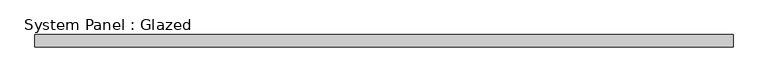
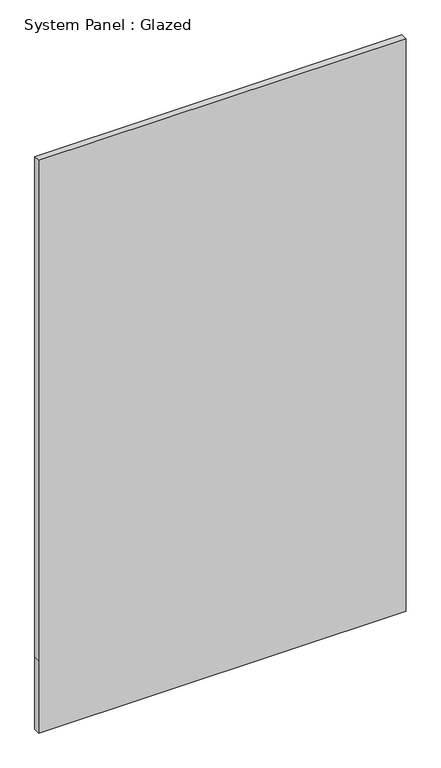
"""IFC4 building model written with IfcOpenShell, lengths in millimetres: plate geometry, System Panel : Glazed."""

import ifcopenshell
import ifcopenshell.guid

model = None  # the IFC model being written
_history = None  # IfcOwnerHistory: only IFC2X3 demands one
_inside = {}  # id of a spatial element -> (the spatial element, [elements in it])
_under = {}  # id of a project, library or spatial element -> (it, [spatial elements below it])
_declared = {}  # id of a project -> (the project, [libraries it declares])
_typed = {}  # id of a type object -> (the type object, [elements of that type])
_made_of = {}  # id of a material, layer set ... -> (it, [elements and type objects made of it])


def new_model(schema):
    """Start an empty IFC model of exactly this schema.

    Asked for "IFC4X3", IfcOpenShell would pick the latest addendum, in which some entities
    have other attributes; the version numbers below select the first issue.
    IFC2X3 requires an IfcOwnerHistory on every rooted entity: one is made here for all.
    """
    global model, _history
    if schema == "IFC4X3":
        model = ifcopenshell.file(schema_version=(4, 3, 0, 0))
    else:
        model = ifcopenshell.file(schema=schema)
    _inside.clear()
    _under.clear()
    _declared.clear()
    _typed.clear()
    _made_of.clear()
    _history = None
    if model.schema == "IFC2X3":
        org = make("IfcOrganization", Name="unknown")
        user = make(
            "IfcPersonAndOrganization",
            ThePerson=make("IfcPerson", FamilyName="unknown"),
            TheOrganization=org,
        )
        app = make(
            "IfcApplication",
            ApplicationDeveloper=org,
            Version="unknown",
            ApplicationFullName="unknown",
            ApplicationIdentifier="unknown",
        )
        _history = make(
            "IfcOwnerHistory",
            OwningUser=user,
            OwningApplication=app,
            ChangeAction="ADDED",
            CreationDate=0,
        )
    return model


def make(cls, **values):
    """One entity of the class cls with the attributes given. An attribute that is None is left unset."""
    return model.create_entity(
        cls, **{name: value for name, value in values.items() if value is not None}
    )


def rooted(cls, **values):
    """An entity with a GlobalId (a new one), such as an element, a storey or a relation."""
    return make(cls, GlobalId=ifcopenshell.guid.new(), OwnerHistory=_history, **values)


def si_unit(unit_type, name, prefix=None):
    """IfcSIUnit, for example si_unit("LENGTHUNIT", "METRE", prefix="MILLI")."""
    return make("IfcSIUnit", UnitType=unit_type, Prefix=prefix, Name=name)


def assignment(units):
    """IfcUnitAssignment: the units of a project."""
    return None if units is None else make("IfcUnitAssignment", Units=units)


def point(xyz):
    """IfcCartesianPoint."""
    return None if xyz is None else make("IfcCartesianPoint", Coordinates=xyz)


def direction(xyz):
    """IfcDirection."""
    return None if xyz is None else make("IfcDirection", DirectionRatios=xyz)


def frame(location, z_axis=None, x_axis=None):
    """IfcAxis2Placement3D, a coordinate frame: its origin and axes. An axis left out is left unset."""
    return make(
        "IfcAxis2Placement3D",
        Location=point(location),
        Axis=direction(z_axis),
        RefDirection=direction(x_axis),
    )


def origin():
    """The frame at (0, 0, 0) with its axes left unset."""
    return frame((0.0, 0.0, 0.0))


def place(relative_to, where):
    """IfcLocalPlacement: puts the frame where relative to a parent placement (None: the world)."""
    return make(
        "IfcLocalPlacement", PlacementRelTo=relative_to, RelativePlacement=where
    )


def context(
    kind, dimensions, precision=None, world=None, true_north=None, identifier=None
):
    """IfcGeometricRepresentationContext, for example the 3D "Model" context."""
    return make(
        "IfcGeometricRepresentationContext",
        ContextIdentifier=identifier,
        ContextType=kind,
        CoordinateSpaceDimension=dimensions,
        Precision=precision,
        WorldCoordinateSystem=world,
        TrueNorth=true_north,
    )


def project(units=None, contexts=None):
    """IfcProject with its units and contexts."""
    return rooted(
        "IfcProject",
        Name="project",
        RepresentationContexts=contexts,
        UnitsInContext=assignment(units),
    )


def spatial(cls, under=None, at=None, **own):
    """A site, building, storey or space (cls), placed at a placement, below another one or the project."""
    s = rooted(cls, ObjectPlacement=at, **own)
    if under is not None:
        _under.setdefault(under.id(), (under, []))[1].append(s)
    return s


def polyline(points):
    """IfcPolyline through the points."""
    return make("IfcPolyline", Points=[point(p) for p in points])


def outline(outer, holes=None, kind="AREA"):
    """IfcArbitraryClosedProfileDef: a profile drawn as a closed curve; with holes, ...WithVoids."""
    if holes is None:
        return make("IfcArbitraryClosedProfileDef", ProfileType=kind, OuterCurve=outer)
    return make(
        "IfcArbitraryProfileDefWithVoids",
        ProfileType=kind,
        OuterCurve=outer,
        InnerCurves=holes,
    )


def extrude(swept, where, along, depth):
    """IfcExtrudedAreaSolid: the profile swept, set in the frame where, extruded along a direction by depth."""
    return make(
        "IfcExtrudedAreaSolid",
        SweptArea=swept,
        Position=where,
        ExtrudedDirection=direction(along),
        Depth=depth,
    )


def shape(context_of_items, identifier, shape_type, items):
    """IfcShapeRepresentation: the items that make up one representation, for example the "Body"."""
    return make(
        "IfcShapeRepresentation",
        ContextOfItems=context_of_items,
        RepresentationIdentifier=identifier,
        RepresentationType=shape_type,
        Items=items,
    )


def source(mapping_origin, context_of_items, identifier, shape_type, items):
    """IfcRepresentationMap: a shape defined once, which mapped items show again and again."""
    return make(
        "IfcRepresentationMap",
        MappingOrigin=mapping_origin,
        MappedRepresentation=shape(context_of_items, identifier, shape_type, items),
    )


def transform(
    local_origin,
    x_axis=None,
    y_axis=None,
    z_axis=None,
    scale=None,
    scale2=None,
    scale3=None,
    uniform=True,
):
    """IfcCartesianTransformationOperator3D, or its non-uniform kind. x_axis, y_axis, z_axis: its Axis1, 2, 3."""
    if uniform:
        return make(
            "IfcCartesianTransformationOperator3D",
            Axis1=direction(x_axis),
            Axis2=direction(y_axis),
            LocalOrigin=point(local_origin),
            Scale=scale,
            Axis3=direction(z_axis),
        )
    return make(
        "IfcCartesianTransformationOperator3DnonUniform",
        Axis1=direction(x_axis),
        Axis2=direction(y_axis),
        LocalOrigin=point(local_origin),
        Scale=scale,
        Axis3=direction(z_axis),
        Scale2=scale2,
        Scale3=scale3,
    )


def mapped(mapping_source, mapping_target):
    """IfcMappedItem: shows the shape of a source again, moved by a transform."""
    return make(
        "IfcMappedItem", MappingSource=mapping_source, MappingTarget=mapping_target
    )


def made_of(thing, what):
    """Note that an element or type object is made of a material, layer set ...; save() writes the relation."""
    if what is not None:
        _made_of.setdefault(what.id(), (what, []))[1].append(thing)
    return thing


def element(
    cls,
    number,
    at=None,
    inside=None,
    cuts=None,
    type_object=None,
    material=None,
    context=None,
    identifier="Body",
    shape_type=None,
    held_by="IfcProductDefinitionShape",
    body=None,
    shapes=None,
    **own,
):
    """One element of the class cls, such as IfcWall. Its Tag is "e" and its number.

    at: its placement. inside: the storey or other place that contains it. cuts: it is an
    opening in that element (IfcRelVoidsElement). A single representation is given by context,
    identifier, shape_type and body (its items); several are given by shapes. held_by: the class
    of the entity that holds the representations. save() writes the other relations.
    """
    e = rooted(cls, Tag="e%d" % number, ObjectPlacement=at, **own)
    if body is not None:
        shapes = [shape(context, identifier, shape_type, body)]
    if shapes is not None:
        e.Representation = make(held_by, Representations=shapes)
    if inside is not None:
        _inside.setdefault(inside.id(), (inside, []))[1].append(e)
    if cuts is not None:
        rooted(
            "IfcRelVoidsElement", RelatingBuildingElement=cuts, RelatedOpeningElement=e
        )
    if type_object is not None:
        _typed.setdefault(type_object.id(), (type_object, []))[1].append(e)
    return made_of(e, material)


def aggregate(whole, parts):
    """IfcRelAggregates: a whole, such as a stair, and the parts it consists of."""
    return rooted("IfcRelAggregates", RelatingObject=whole, RelatedObjects=parts)


def save(model, path):
    """Write the relations noted so far, then the file.

    IfcRelAggregates (storeys below a building ...), IfcRelContainedInSpatialStructure (elements
    in a storey), IfcRelDefinesByType, IfcRelAssociatesMaterial and IfcRelDeclares: one each for
    every whole, place, type object, material and project.
    """
    for whole, parts in _under.values():
        aggregate(whole, parts)
    for where, things in _inside.values():
        rooted(
            "IfcRelContainedInSpatialStructure",
            RelatedElements=things,
            RelatingStructure=where,
        )
    for kind, things in _typed.values():
        rooted("IfcRelDefinesByType", RelatedObjects=things, RelatingType=kind)
    for what, things in _made_of.values():
        rooted("IfcRelAssociatesMaterial", RelatedObjects=things, RelatingMaterial=what)
    for by, libraries in _declared.values():
        rooted("IfcRelDeclares", RelatingContext=by, RelatedDefinitions=libraries)
    model.write(path)


def system_panel_glazed_cddbe8b8(model_context):
    return source(origin(), model_context, "Body", "SweptSolid", [
        extrude(outline(polyline([(0.0, -730.25), (0.0, 730.25), (304.8, 730.25), (2406.65, 730.25), (2406.65, -730.25), (304.8, -730.25), (0.0, -730.25)])), frame((0.0, 19.05, 0.0), z_axis=(0.0, 1.0, 0.0), x_axis=(0.0, 0.0, 1.0)), (0.0, 0.0, 1.0), 25.4),
    ])


if __name__ == "__main__":
    model = new_model("IFC4")
    model_context = context("Model", 3, world=origin())
    ifc_project = project(units=[si_unit("LENGTHUNIT", "METRE", prefix="MILLI")], contexts=[model_context])
    site = spatial("IfcSite", under=ifc_project)
    building = spatial("IfcBuilding", under=site)
    placement = place(None, origin())
    system_panel_glazed_shape = system_panel_glazed_cddbe8b8(model_context)
    element("IfcPlate", 1, ObjectType="System Panel : Glazed", at=placement, inside=building, context=model_context, shape_type="MappedRepresentation", body=[
        mapped(system_panel_glazed_shape, transform((0.0, 0.0, 0.0), x_axis=(1.0, 0.0, 0.0), y_axis=(0.0, 1.0, 0.0), z_axis=(0.0, 0.0, 1.0))),
    ])
    save(model, "model.ifc")
